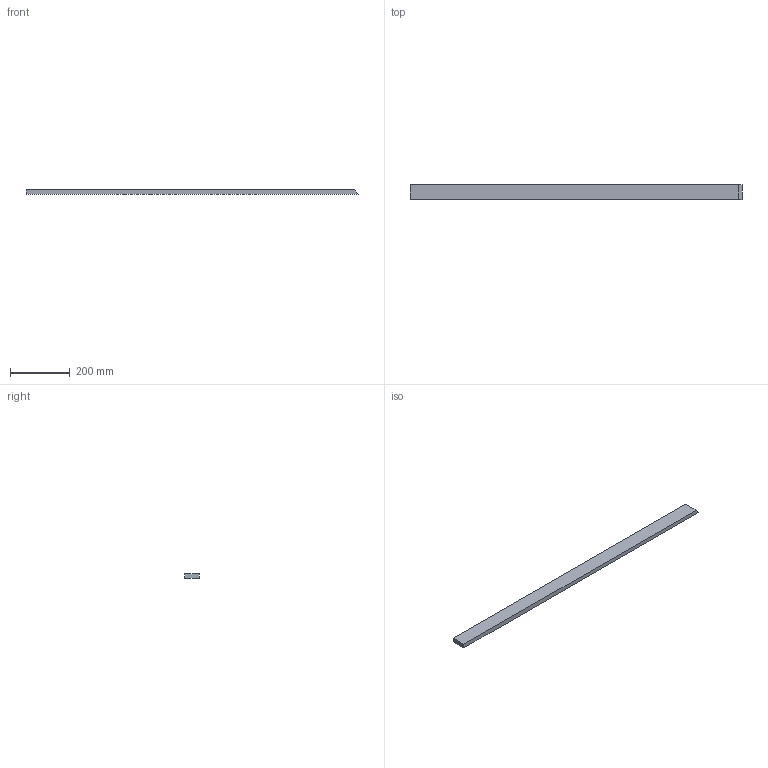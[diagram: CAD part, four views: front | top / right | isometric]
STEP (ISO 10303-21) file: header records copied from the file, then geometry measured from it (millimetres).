
FILE_DESCRIPTION(/* description */ (''),/* implementation_level */ '2;1');
FILE_NAME(/* name */ 'Pos107-Plaatwerk D= 15-S235JRG2-1st',/* time_stamp */ '2024-08-06T13:49:48+02:00',/* author */ (''),/* organization */ (''),/* preprocessor_version */ 'ST-DEVELOPER v16.5',/* originating_system */ 'HiCAD 2024 2901.2 Build 361',/* authorisation */ '');
FILE_SCHEMA (('AUTOMOTIVE_DESIGN { 1 0 10303 214 1 1 1 1 }'));
Length unit declared in the file: millimetre
Products named in the file (1): Pos107-Plaatwerk D= 15-S235JRG2-1st
Bounding box: 1107.14 x 50 x 15 mm (x, y, z)
Volume: 825800.7 mm3; surface area: 144853.8 mm2
Topology: 1 solids, 1 shells, 6 faces, 12 edges, 8 vertices
Faces by surface type: plane 6
Entity records: 294 total; most frequent: CARTESIAN_POINT 26, PRESENTATION_STYLE_ASSIGNMENT 25, COLOUR_RGB 25, DRAUGHTING_PRE_DEFINED_CURVE_FONT 24, CURVE_STYLE 24, OVER_RIDING_STYLED_ITEM 24, ORIENTED_EDGE 24, DIRECTION 24
